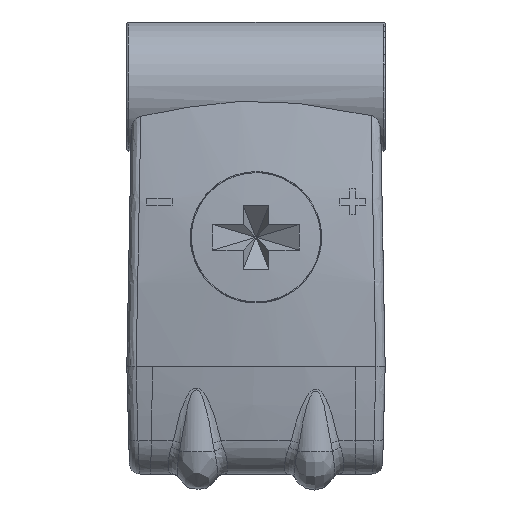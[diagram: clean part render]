
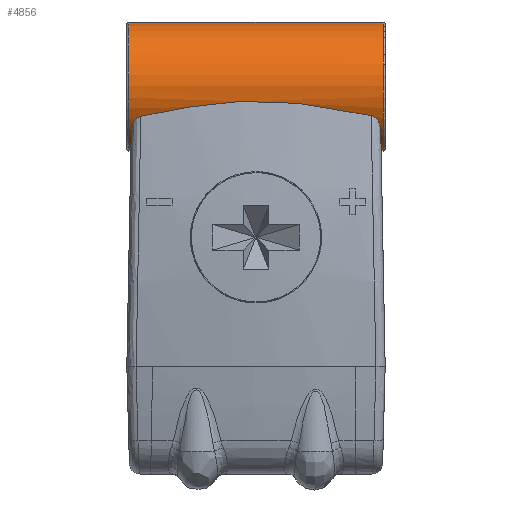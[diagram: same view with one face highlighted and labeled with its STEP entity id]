
A CAD part, left-side view. The second image highlights one B-rep face of the part: STEP entity #4856.
In plain terms, the highlighted cylindrical face has radius 3 mm (diameter 6 mm), a full revolution.
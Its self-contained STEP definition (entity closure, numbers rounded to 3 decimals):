
#136=FACE_BOUND('',#944,.T.);
#137=FACE_BOUND('',#945,.T.);
#233=CIRCLE('',#5119,3.);
#234=CIRCLE('',#5120,3.);
#652=CYLINDRICAL_SURFACE('',#5118,3.);
#745=FACE_OUTER_BOUND('',#943,.T.);
#943=EDGE_LOOP('',(#3325));
#944=EDGE_LOOP('',(#3326));
#945=EDGE_LOOP('',(#3327,#3328,#3329,#3330,#3331,#3332,#3333,#3334));
#1101=ELLIPSE('',#5087,3.001,3.);
#1105=ELLIPSE('',#5093,3.001,3.);
#1155=LINE('',#10202,#1313);
#1313=VECTOR('',#5923,10.822);
#1489=B_SPLINE_CURVE_WITH_KNOTS('',3,(#10138,#10139,#10140,#10141,#10142,
#10143,#10144,#10145,#10146,#10147,#10148,#10149),.UNSPECIFIED.,.F.,.F.,
(4,2,2,2,2,4),(-0.251,-0.245,-0.239,
-0.227,-0.205,-0.184),.UNSPECIFIED.);
#1490=B_SPLINE_CURVE_WITH_KNOTS('',3,(#10156,#10157,#10158,#10159,#10160,
#10161,#10162,#10163,#10164,#10165),.UNSPECIFIED.,.F.,.F.,(4,2,2,2,4),(-0.191,
-0.154,-0.136,-0.131,-0.125),
 .UNSPECIFIED.);
#1491=B_SPLINE_CURVE_WITH_KNOTS('',3,(#10167,#10168,#10169,#10170,#10171,
#10172,#10173,#10174,#10175,#10176,#10177,#10178),.UNSPECIFIED.,.F.,.F.,
(4,2,2,2,2,4),(-0.096,-0.086,-0.074,
-0.048,-0.023,0.),
 .UNSPECIFIED.);
#1492=B_SPLINE_CURVE_WITH_KNOTS('',3,(#10180,#10181,#10182,#10183,#10184,
#10185,#10186,#10187,#10188,#10189),.UNSPECIFIED.,.F.,.F.,(4,3,3,4),(13.319,
13.718,13.897,14.46),.UNSPECIFIED.);
#1493=B_SPLINE_CURVE_WITH_KNOTS('',3,(#10190,#10191,#10192,#10193,#10194,
#10195,#10196,#10197,#10198,#10199,#10200,#10201),.UNSPECIFIED.,.F.,.F.,
(4,2,2,2,2,4),(-0.084,-0.064,-0.042,
-0.019,-0.009,0.),
 .UNSPECIFIED.);
#1652=VERTEX_POINT('',#9147);
#1653=VERTEX_POINT('',#9149);
#1655=VERTEX_POINT('',#9156);
#1658=VERTEX_POINT('',#9162);
#1673=VERTEX_POINT('',#10136);
#1674=VERTEX_POINT('',#10151);
#1675=VERTEX_POINT('',#10153);
#1676=VERTEX_POINT('',#10155);
#1677=VERTEX_POINT('',#10166);
#1678=VERTEX_POINT('',#10179);
#2321=EDGE_CURVE('',#1652,#1653,#1101,.T.);
#2329=EDGE_CURVE('',#1655,#1658,#1105,.T.);
#2362=EDGE_CURVE('',#1673,#1652,#1489,.T.);
#2363=EDGE_CURVE('',#1674,#1674,#233,.F.);
#2364=EDGE_CURVE('',#1675,#1675,#234,.T.);
#2365=EDGE_CURVE('',#1655,#1676,#1490,.T.);
#2366=EDGE_CURVE('',#1677,#1658,#1491,.T.);
#2367=EDGE_CURVE('',#1678,#1677,#1492,.T.);
#2368=EDGE_CURVE('',#1653,#1678,#1493,.T.);
#2369=EDGE_CURVE('',#1673,#1676,#1155,.T.);
#3325=ORIENTED_EDGE('',*,*,#2363,.F.);
#3326=ORIENTED_EDGE('',*,*,#2364,.F.);
#3327=ORIENTED_EDGE('',*,*,#2365,.F.);
#3328=ORIENTED_EDGE('',*,*,#2329,.T.);
#3329=ORIENTED_EDGE('',*,*,#2366,.F.);
#3330=ORIENTED_EDGE('',*,*,#2367,.F.);
#3331=ORIENTED_EDGE('',*,*,#2368,.F.);
#3332=ORIENTED_EDGE('',*,*,#2321,.F.);
#3333=ORIENTED_EDGE('',*,*,#2362,.F.);
#3334=ORIENTED_EDGE('',*,*,#2369,.T.);
#4856=ADVANCED_FACE('',(#745,#136,#137),#652,.T.);
#5087=AXIS2_PLACEMENT_3D('',#9150,#5850,#5851);
#5093=AXIS2_PLACEMENT_3D('',#9164,#5865,#5866);
#5118=AXIS2_PLACEMENT_3D('',#10150,#5917,#5918);
#5119=AXIS2_PLACEMENT_3D('',#10152,#5919,#5920);
#5120=AXIS2_PLACEMENT_3D('',#10154,#5921,#5922);
#5850=DIRECTION('center_axis',(0.,1.,-0.019));
#5851=DIRECTION('ref_axis',(0.,-0.019,-1.));
#5865=DIRECTION('center_axis',(0.,1.,0.019));
#5866=DIRECTION('ref_axis',(0.,-0.019,1.));
#5917=DIRECTION('center_axis',(0.,-1.,0.));
#5918=DIRECTION('ref_axis',(1.,0.,0.));
#5919=DIRECTION('center_axis',(0.,-1.,0.));
#5920=DIRECTION('ref_axis',(0.,0.,1.));
#5921=DIRECTION('center_axis',(0.,-1.,0.));
#5922=DIRECTION('ref_axis',(0.,0.,1.));
#5923=DIRECTION('',(0.,1.,0.));
#9147=CARTESIAN_POINT('',(-10.958,-5.711,-40.094));
#9149=CARTESIAN_POINT('',(-15.014,-5.793,-44.469));
#9150=CARTESIAN_POINT('Origin',(-12.75,-5.756,-42.5));
#9156=CARTESIAN_POINT('',(-10.958,5.711,-40.094));
#9162=CARTESIAN_POINT('',(-14.998,5.794,-44.487));
#9164=CARTESIAN_POINT('Origin',(-12.75,5.756,-42.5));
#10136=CARTESIAN_POINT('',(-11.442,-5.411,-39.8));
#10138=CARTESIAN_POINT('Ctrl Pts',(-11.442,-5.411,
-39.8));
#10139=CARTESIAN_POINT('Ctrl Pts',(-11.442,-5.431,
-39.8));
#10140=CARTESIAN_POINT('Ctrl Pts',(-11.438,-5.45,
-39.802));
#10141=CARTESIAN_POINT('Ctrl Pts',(-11.424,-5.486,
-39.809));
#10142=CARTESIAN_POINT('Ctrl Pts',(-11.414,-5.502,-39.814));
#10143=CARTESIAN_POINT('Ctrl Pts',(-11.379,-5.549,
-39.831));
#10144=CARTESIAN_POINT('Ctrl Pts',(-11.348,-5.575,
-39.847));
#10145=CARTESIAN_POINT('Ctrl Pts',(-11.264,-5.634,
-39.893));
#10146=CARTESIAN_POINT('Ctrl Pts',(-11.201,-5.663,
-39.93));
#10147=CARTESIAN_POINT('Ctrl Pts',(-11.075,-5.701,
-40.01));
#10148=CARTESIAN_POINT('Ctrl Pts',(-11.014,-5.71,
-40.053));
#10149=CARTESIAN_POINT('Ctrl Pts',(-10.958,-5.711,
-40.094));
#10150=CARTESIAN_POINT('Origin',(-12.75,-5.7,-42.5));
#10151=CARTESIAN_POINT('',(-15.352,5.9,-43.993));
#10152=CARTESIAN_POINT('Origin',(-12.75,5.9,-42.5));
#10153=CARTESIAN_POINT('',(-15.368,-5.9,-43.964));
#10154=CARTESIAN_POINT('Origin',(-12.75,-5.9,-42.5));
#10155=CARTESIAN_POINT('',(-11.442,5.411,-39.8));
#10156=CARTESIAN_POINT('Ctrl Pts',(-10.958,5.711,-40.094));
#10157=CARTESIAN_POINT('Ctrl Pts',(-11.057,5.71,-40.02));
#10158=CARTESIAN_POINT('Ctrl Pts',(-11.178,5.678,-39.942));
#10159=CARTESIAN_POINT('Ctrl Pts',(-11.321,5.597,-39.861));
#10160=CARTESIAN_POINT('Ctrl Pts',(-11.375,5.558,-39.834));
#10161=CARTESIAN_POINT('Ctrl Pts',(-11.417,5.497,-39.812));
#10162=CARTESIAN_POINT('Ctrl Pts',(-11.426,5.481,-39.808));
#10163=CARTESIAN_POINT('Ctrl Pts',(-11.439,5.447,-39.802));
#10164=CARTESIAN_POINT('Ctrl Pts',(-11.442,5.428,-39.8));
#10165=CARTESIAN_POINT('Ctrl Pts',(-11.442,5.411,-39.8));
#10166=CARTESIAN_POINT('',(-15.415,5.35,-43.878));
#10167=CARTESIAN_POINT('Ctrl Pts',(-15.415,5.35,-43.878));
#10168=CARTESIAN_POINT('Ctrl Pts',(-15.412,5.38,-43.884));
#10169=CARTESIAN_POINT('Ctrl Pts',(-15.407,5.408,-43.894));
#10170=CARTESIAN_POINT('Ctrl Pts',(-15.392,5.465,-43.921));
#10171=CARTESIAN_POINT('Ctrl Pts',(-15.383,5.493,-43.938));
#10172=CARTESIAN_POINT('Ctrl Pts',(-15.348,5.575,-44.));
#10173=CARTESIAN_POINT('Ctrl Pts',(-15.316,5.625,-44.056));
#10174=CARTESIAN_POINT('Ctrl Pts',(-15.237,5.708,-44.179));
#10175=CARTESIAN_POINT('Ctrl Pts',(-15.192,5.74,-44.244));
#10176=CARTESIAN_POINT('Ctrl Pts',(-15.098,5.781,-44.368));
#10177=CARTESIAN_POINT('Ctrl Pts',(-15.049,5.792,-44.429));
#10178=CARTESIAN_POINT('Ctrl Pts',(-14.998,5.794,-44.487));
#10179=CARTESIAN_POINT('',(-15.429,-5.348,-43.85));
#10180=CARTESIAN_POINT('Ctrl Pts',(-15.429,-5.348,-43.85));
#10181=CARTESIAN_POINT('Ctrl Pts',(-15.546,-4.216,
-43.618));
#10182=CARTESIAN_POINT('Ctrl Pts',(-15.618,-3.05,
-43.389));
#10183=CARTESIAN_POINT('Ctrl Pts',(-15.652,-1.798,
-43.26));
#10184=CARTESIAN_POINT('Ctrl Pts',(-15.667,-1.238,
-43.202));
#10185=CARTESIAN_POINT('Ctrl Pts',(-15.675,-0.662,
-43.167));
#10186=CARTESIAN_POINT('Ctrl Pts',(-15.675,-0.067,
-43.167));
#10187=CARTESIAN_POINT('Ctrl Pts',(-15.675,1.811,-43.167));
#10188=CARTESIAN_POINT('Ctrl Pts',(-15.598,3.632,-43.523));
#10189=CARTESIAN_POINT('Ctrl Pts',(-15.415,5.35,-43.878));
#10190=CARTESIAN_POINT('Ctrl Pts',(-15.014,-5.793,-44.469));
#10191=CARTESIAN_POINT('Ctrl Pts',(-15.065,-5.792,
-44.41));
#10192=CARTESIAN_POINT('Ctrl Pts',(-15.114,-5.781,
-44.348));
#10193=CARTESIAN_POINT('Ctrl Pts',(-15.208,-5.739,
-44.222));
#10194=CARTESIAN_POINT('Ctrl Pts',(-15.253,-5.708,
-44.156));
#10195=CARTESIAN_POINT('Ctrl Pts',(-15.331,-5.624,
-44.03));
#10196=CARTESIAN_POINT('Ctrl Pts',(-15.364,-5.573,
-43.974));
#10197=CARTESIAN_POINT('Ctrl Pts',(-15.398,-5.491,
-43.911));
#10198=CARTESIAN_POINT('Ctrl Pts',(-15.407,-5.463,-43.893));
#10199=CARTESIAN_POINT('Ctrl Pts',(-15.421,-5.406,
-43.866));
#10200=CARTESIAN_POINT('Ctrl Pts',(-15.426,-5.378,
-43.856));
#10201=CARTESIAN_POINT('Ctrl Pts',(-15.429,-5.348,
-43.85));
#10202=CARTESIAN_POINT('',(-11.442,-5.411,-39.8));
